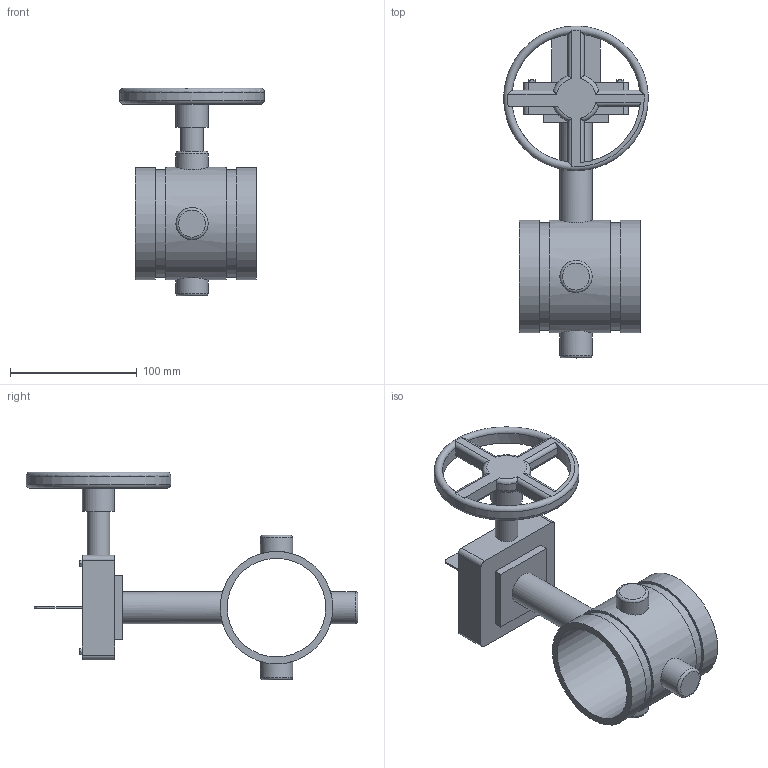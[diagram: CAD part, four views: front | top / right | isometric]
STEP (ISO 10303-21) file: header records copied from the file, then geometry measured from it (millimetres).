
FILE_DESCRIPTION(/* description */ ('VIC FIRELOCK BUTTERFLY VALVE SERIES 707-C W/ WEATHERPROOF ACTUATOR FOR 300 PSI','CAx-IF Rec.Pracs.---Representation and Presentation of Product Manufacturing Information (PMI)---4.0---2014-10-13'),/* implementation_level */ '2;1');
FILE_NAME(/* name */ 'C:\Users\Vjadhav\AppData\Roaming\Autodesk\ApplicationPlugins\Back Up\Victaulic_FP-FireLock_Valve Butterfly_Series 707C (OGS)-Closed\Victaulic_FP-FireLock_Valve Butterfly_Series 707C (OGS)-Closed_3 (80).stp',/* time_stamp */ '2020-07-20T15:14:52+06:00',/* author */ ('kkamble'),/* organization */ ('Victaulic'),/* preprocessor_version */ 'ST-DEVELOPER v17.2',/* originating_system */ 'Autodesk Inventor 2019',/* authorisation */ '');
FILE_SCHEMA (('AP242_MANAGED_MODEL_BASED_3D_ENGINEERING_MIM_LF { 1 0 10303 442 1 1 4 }'));
Length unit declared in the file: inch
Products named in the file (1): 707C-03.0
Bounding box: 114.3 x 262.13 x 164.34 mm (x, y, z)
Volume: 460056.1 mm3; surface area: 112913.7 mm2
Topology: 1 solids, 1 shells, 119 faces, 311 edges, 208 vertices
Faces by surface type: plane 66, cylinder 40, torus 13
Full cylindrical faces by diameter (mm): 17.78 x1, 25.4 x5, 77.927 x1, 84.938 x2, 88.9 x3, 114.3 x1
Entity records: 4402 total; most frequent: CARTESIAN_POINT 1160, DIRECTION 629, ORIENTED_EDGE 622, EDGE_CURVE 311, AXIS2_PLACEMENT_3D 225, VERTEX_POINT 208, LINE 179, VECTOR 179
